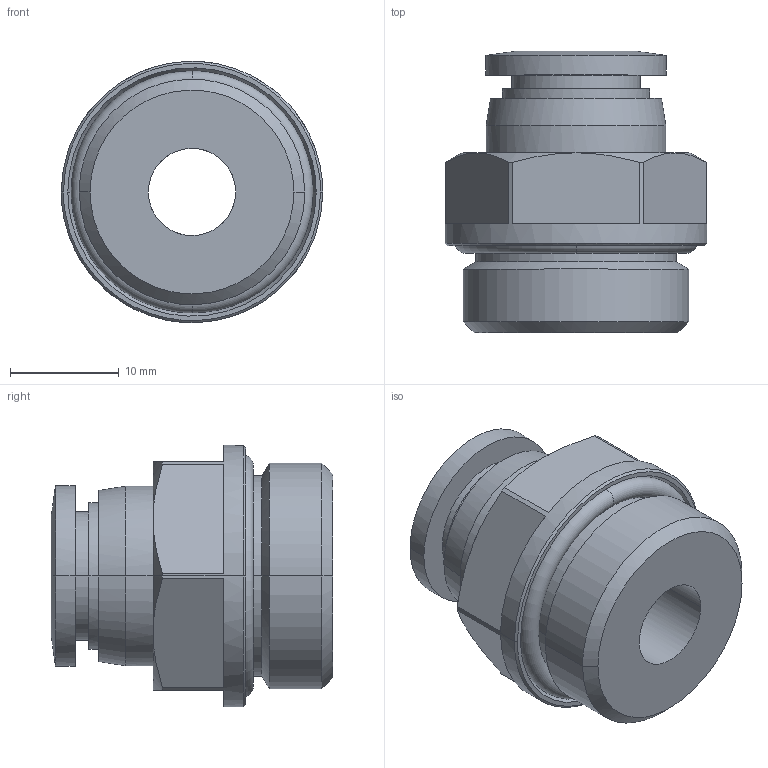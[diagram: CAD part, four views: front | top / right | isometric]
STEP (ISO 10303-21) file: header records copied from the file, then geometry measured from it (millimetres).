
FILE_DESCRIPTION (( 'STEP AP203' ), '1' );
FILE_NAME ('FH10-04.STEP', '2020-05-06T14:35:50', ( '' ), ( '' ), 'SwSTEP 2.0', 'SolidWorks 2019', '' );
FILE_SCHEMA (( 'CONFIG_CONTROL_DESIGN' ));
Length unit declared in the file: millimetre
Products named in the file (1): FH10-04
Bounding box: 24 x 25.85 x 24 mm (x, y, z)
Surface area: 3895.1 mm2 (no closed solid volume)
Topology: 0 solids, 4 shells, 67 faces, 156 edges, 99 vertices
Faces by surface type: plane 22, cylinder 20, cone 19, torus 6
Entity records: 3301 total; most frequent: CARTESIAN_POINT 1934, ORIENTED_EDGE 296, DIRECTION 181, EDGE_CURVE 156, B_SPLINE_CURVE_WITH_KNOTS 117, VERTEX_POINT 99, EDGE_LOOP 77, AXIS2_PLACEMENT_3D 74
